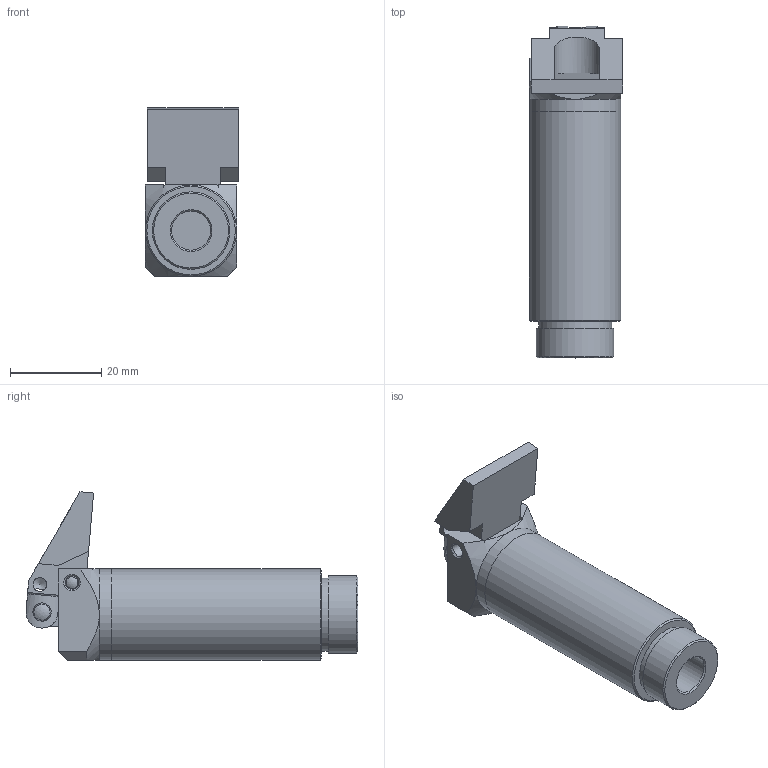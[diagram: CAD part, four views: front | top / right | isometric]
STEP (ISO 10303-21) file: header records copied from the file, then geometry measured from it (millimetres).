
FILE_DESCRIPTION(/* description */ ('Gripper Finger 95°'),/* implementation_level */ '2;1');
FILE_NAME(/* name */ 'GF-20.STEP',/* time_stamp */ '2026-02-10T14:44:28-05:00',/* author */ ('Design2'),/* organization */ ('CCS Design LLC'),/* preprocessor_version */ 'ST-DEVELOPER v20',/* originating_system */ 'Autodesk Inventor 2025',/* authorisation */ '');
FILE_SCHEMA (('AUTOMOTIVE_DESIGN { 1 0 10303 214 3 1 1 }'));
Length unit declared in the file: inch
Products named in the file (9): GF-20-95; M-GF-20-95-B; M-GF-20-95-A; M-GF-20-95-F; M-GF-20-95-H; M-GF-20-95-P; Piston Seal Z8 1611 N3580; ISO 8734 - 3 x 16 - A; ISO 8734 - 4 x 12 - A
Assembly tree (9 placements, depth 2):
  GF-20-95
    M-GF-20-95-B
    M-GF-20-95-A
    M-GF-20-95-F
    M-GF-20-95-H
    M-GF-20-95-P
    Piston Seal Z8 1611 N3580
    ISO 8734 - 4 x 12 - A  x2
    ISO 8734 - 3 x 16 - A
Bounding box: 20.4 x 72.79 x 36.92 mm (x, y, z)
Volume: 15471.1 mm3; surface area: 14577.9 mm2
Topology: 9 solids, 9 shells, 153 faces, 374 edges, 244 vertices
Faces by surface type: plane 65, cylinder 50, cone 29, sphere 6, torus 3
Full cylindrical faces by diameter (mm): 3 x6, 4 x8, 8.56 x1, 9.525 x1, 11 x2, 12.5 x1, 13 x1, 14.214 x1, 15.8 x2, 16 x3, 17 x1, 18 x2, 20 x2
Entity records: 5033 total; most frequent: CARTESIAN_POINT 1023, DIRECTION 805, ORIENTED_EDGE 734, EDGE_CURVE 367, AXIS2_PLACEMENT_3D 307, VERTEX_POINT 241, LINE 191, VECTOR 191
